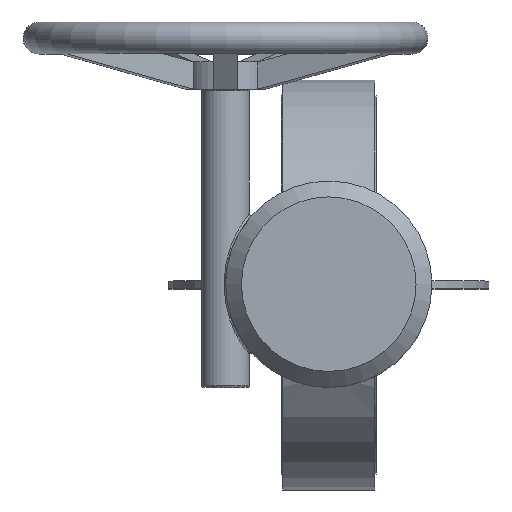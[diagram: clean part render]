
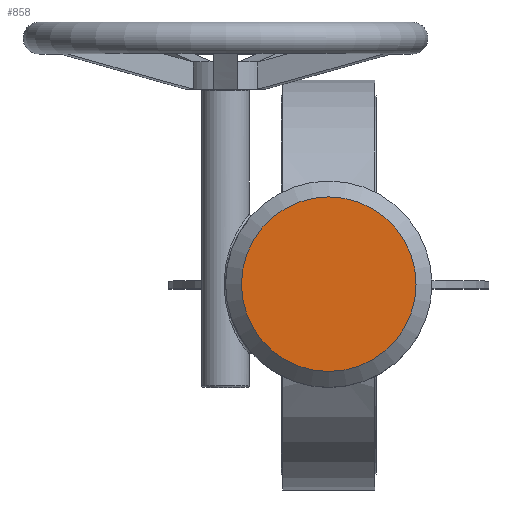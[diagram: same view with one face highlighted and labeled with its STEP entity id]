
A CAD part, top view. The second image highlights one B-rep face of the part: STEP entity #858.
In plain terms, the highlighted planar face has unit normal (0, 0, 1).
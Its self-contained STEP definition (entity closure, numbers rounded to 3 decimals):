
#858=ADVANCED_FACE('',(#2656),#2658,.T.);
#2656=FACE_BOUND('',#2657,.T.);
#2657=EDGE_LOOP('',(#3401));
#2658=PLANE('',#2659);
#2659=AXIS2_PLACEMENT_3D('',#2660,#2661,#2662);
#2660=CARTESIAN_POINT('',(0.,0.,306.));
#2661=DIRECTION('',(0.,0.,1.));
#2662=DIRECTION('',(-1.,0.,0.));
#3401=ORIENTED_EDGE('',*,*,#3789,.T.);
#3789=EDGE_CURVE('',#4213,#4213,#4214,.T.);
#4213=VERTEX_POINT('',#5964);
#4214=CIRCLE('',#5965,55.);
#5964=CARTESIAN_POINT('',(-55.,0.,306.));
#5965=AXIS2_PLACEMENT_3D('',#5966,#5967,#5968);
#5966=CARTESIAN_POINT('',(0.,0.,306.));
#5967=DIRECTION('',(0.,0.,1.));
#5968=DIRECTION('',(-1.,0.,0.));
